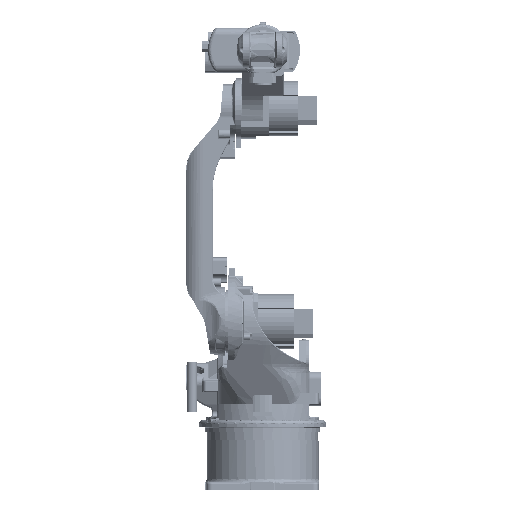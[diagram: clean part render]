
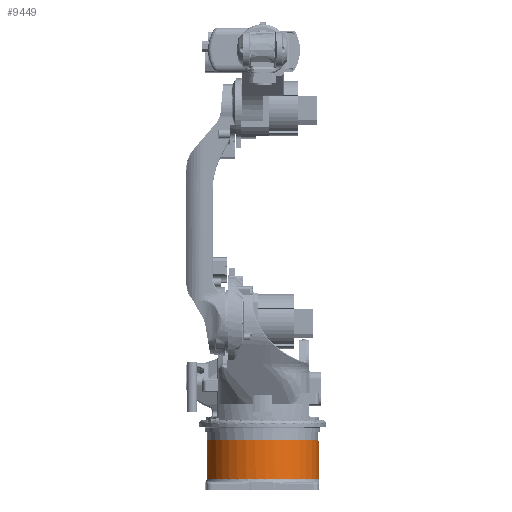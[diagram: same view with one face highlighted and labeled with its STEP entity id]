
A CAD part, top view. The second image highlights one B-rep face of the part: STEP entity #9449.
In plain terms, the highlighted cylindrical face has radius 150 mm (diameter 300 mm), a partial arc.
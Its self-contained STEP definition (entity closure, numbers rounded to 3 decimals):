
#400=DIRECTION('',(0.,-1.,0.));
#401=VECTOR('',#400,99.);
#402=CARTESIAN_POINT('',(-109.167,127.,-102.872));
#403=LINE('',#402,#401);
#404=CARTESIAN_POINT('',(0.,132.,0.));
#405=DIRECTION('',(0.,1.,0.));
#406=DIRECTION('',(-0.085,0.,-0.996));
#407=AXIS2_PLACEMENT_3D('',#404,#405,#406);
#409=DIRECTION('',(0.,-1.,0.));
#410=VECTOR('',#409,99.);
#411=CARTESIAN_POINT('',(109.167,127.,-102.872));
#412=LINE('',#411,#410);
#413=CARTESIAN_POINT('',(0.,28.,0.));
#414=DIRECTION('',(0.,1.,0.));
#415=DIRECTION('',(1.,0.,0.));
#416=AXIS2_PLACEMENT_3D('',#413,#414,#415);
#418=CARTESIAN_POINT('',(0.,28.,0.));
#419=DIRECTION('',(0.,-1.,0.));
#420=DIRECTION('',(1.,0.,0.));
#421=AXIS2_PLACEMENT_3D('',#418,#419,#420);
#1243=CARTESIAN_POINT('',(0.,130.,0.));
#1244=DIRECTION('',(0.,-1.,0.));
#1245=DIRECTION('',(-0.387,0.,-0.922));
#1246=AXIS2_PLACEMENT_3D('',#1243,#1244,#1245);
#1252=CARTESIAN_POINT('',(0.,130.,0.));
#1253=DIRECTION('',(0.,1.,0.));
#1254=DIRECTION('',(0.668,0.,-0.744));
#1255=AXIS2_PLACEMENT_3D('',#1252,#1253,#1254);
#1473=CARTESIAN_POINT('',(0.,127.,0.));
#1474=DIRECTION('',(0.,1.,0.));
#1475=DIRECTION('',(-0.387,0.,-0.922));
#1476=AXIS2_PLACEMENT_3D('',#1473,#1474,#1475);
#1518=DIRECTION('',(0.,-1.,0.));
#1519=VECTOR('',#1518,3.);
#1520=CARTESIAN_POINT('',(-58.,130.,-138.333));
#1521=LINE('',#1520,#1519);
#6188=CARTESIAN_POINT('',(109.167,127.,-102.872));
#6189=CARTESIAN_POINT('',(108.553,127.31,-103.523));
#6190=CARTESIAN_POINT('',(107.363,127.905,-104.763));
#6191=CARTESIAN_POINT('',(105.669,128.675,-106.47));
#6192=CARTESIAN_POINT('',(104.11,129.274,-107.994));
#6193=CARTESIAN_POINT('',(102.678,129.696,-109.354));
#6194=CARTESIAN_POINT('',(101.365,129.946,-110.572));
#6195=CARTESIAN_POINT('',(100.565,130.,-111.297));
#6196=CARTESIAN_POINT('',(100.185,130.,-111.637));
#6769=CARTESIAN_POINT('',(150.,28.,0.));
#6860=DIRECTION('',(0.,-1.,0.));
#6861=VECTOR('',#6860,2.);
#6862=CARTESIAN_POINT('',(-12.745,132.,-149.458));
#6863=LINE('',#6862,#6861);
#6910=DIRECTION('',(0.,-1.,0.));
#6911=VECTOR('',#6910,2.);
#6912=CARTESIAN_POINT('',(96.,132.,-115.256));
#6913=LINE('',#6912,#6911);
#7333=CARTESIAN_POINT('',(-58.,130.,-138.333));
#7334=CARTESIAN_POINT('',(-58.,127.,-138.333));
#7335=VERTEX_POINT('',#7333);
#7336=VERTEX_POINT('',#7334);
#8074=CARTESIAN_POINT('',(-12.745,130.,-149.458));
#8075=VERTEX_POINT('',#8074);
#8142=VERTEX_POINT('',#6769);
#8214=CARTESIAN_POINT('',(-12.745,132.,-149.458));
#8215=CARTESIAN_POINT('',(96.,132.,-115.256));
#8216=VERTEX_POINT('',#8214);
#8217=VERTEX_POINT('',#8215);
#8352=CARTESIAN_POINT('',(96.,130.,-115.256));
#8354=VERTEX_POINT('',#8352);
#8613=CARTESIAN_POINT('',(-109.167,127.,-102.872));
#8615=VERTEX_POINT('',#8613);
#8728=CARTESIAN_POINT('',(100.185,130.,-111.637));
#8729=VERTEX_POINT('',#8728);
#8730=CARTESIAN_POINT('',(109.167,127.,-102.872));
#8731=VERTEX_POINT('',#8730);
#8750=CARTESIAN_POINT('',(109.167,28.,-102.872));
#8751=VERTEX_POINT('',#8750);
#8759=CARTESIAN_POINT('',(-109.167,28.,-102.872));
#8761=VERTEX_POINT('',#8759);
#9421=CARTESIAN_POINT('',(0.,164.9,0.));
#9422=DIRECTION('',(0.,-1.,0.));
#9423=DIRECTION('',(0.,0.,-1.));
#9424=AXIS2_PLACEMENT_3D('',#9421,#9422,#9423);
#9425=CYLINDRICAL_SURFACE('',#9424,150.);
#9427=ORIENTED_EDGE('',*,*,#9426,.F.);
#9429=ORIENTED_EDGE('',*,*,#9428,.F.);
#9431=ORIENTED_EDGE('',*,*,#9430,.F.);
#9433=ORIENTED_EDGE('',*,*,#9432,.T.);
#9435=ORIENTED_EDGE('',*,*,#9434,.F.);
#9437=ORIENTED_EDGE('',*,*,#9436,.T.);
#9439=ORIENTED_EDGE('',*,*,#9438,.T.);
#9441=ORIENTED_EDGE('',*,*,#9440,.F.);
#9443=ORIENTED_EDGE('',*,*,#9442,.F.);
#9444=ORIENTED_EDGE('',*,*,#9396,.T.);
#9445=ORIENTED_EDGE('',*,*,#9336,.F.);
#9446=ORIENTED_EDGE('',*,*,#9348,.T.);
#9447=EDGE_LOOP('',(#9427,#9429,#9431,#9433,#9435,#9437,#9439,#9441,#9443,#9444,
#9445,#9446));
#9448=FACE_OUTER_BOUND('',#9447,.F.);
#9449=ADVANCED_FACE('',(#9448),#9425,.T.);
#408=CIRCLE('',#407,150.);
#417=CIRCLE('',#416,150.);
#422=CIRCLE('',#421,150.);
#1247=CIRCLE('',#1246,150.);
#1256=CIRCLE('',#1255,150.);
#1477=CIRCLE('',#1476,150.);
#6197=B_SPLINE_CURVE_WITH_KNOTS('',3,(#6188,#6189,#6190,#6191,#6192,#6193,#6194,
#6195,#6196),.UNSPECIFIED.,.F.,.F.,(4,1,1,1,1,1,4),(0.,0.167,
0.333,0.5,0.667,0.833,1.),
.UNSPECIFIED.);
#9336=EDGE_CURVE('',#8142,#8751,#417,.T.);
#9348=EDGE_CURVE('',#8142,#8761,#422,.T.);
#9396=EDGE_CURVE('',#8731,#8751,#412,.T.);
#9426=EDGE_CURVE('',#8615,#8761,#403,.T.);
#9428=EDGE_CURVE('',#7336,#8615,#1477,.T.);
#9430=EDGE_CURVE('',#7335,#7336,#1521,.T.);
#9432=EDGE_CURVE('',#7335,#8075,#1247,.T.);
#9434=EDGE_CURVE('',#8216,#8075,#6863,.T.);
#9436=EDGE_CURVE('',#8216,#8217,#408,.T.);
#9438=EDGE_CURVE('',#8217,#8354,#6913,.T.);
#9440=EDGE_CURVE('',#8729,#8354,#1256,.T.);
#9442=EDGE_CURVE('',#8731,#8729,#6197,.T.);
